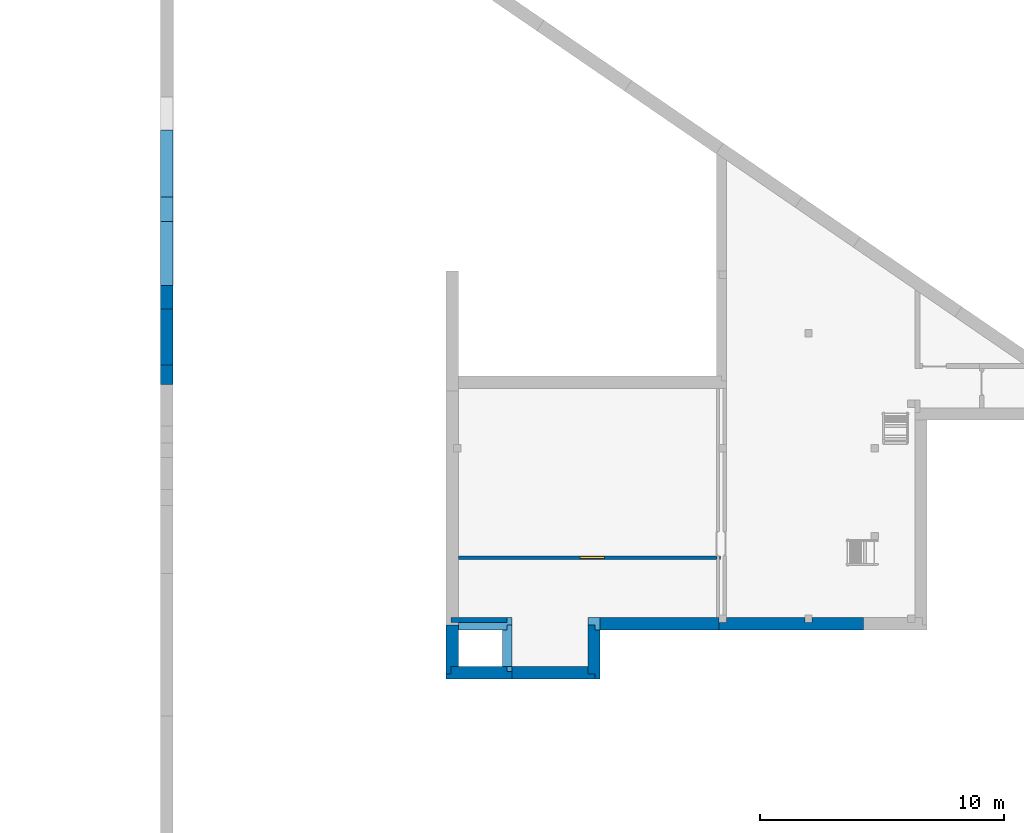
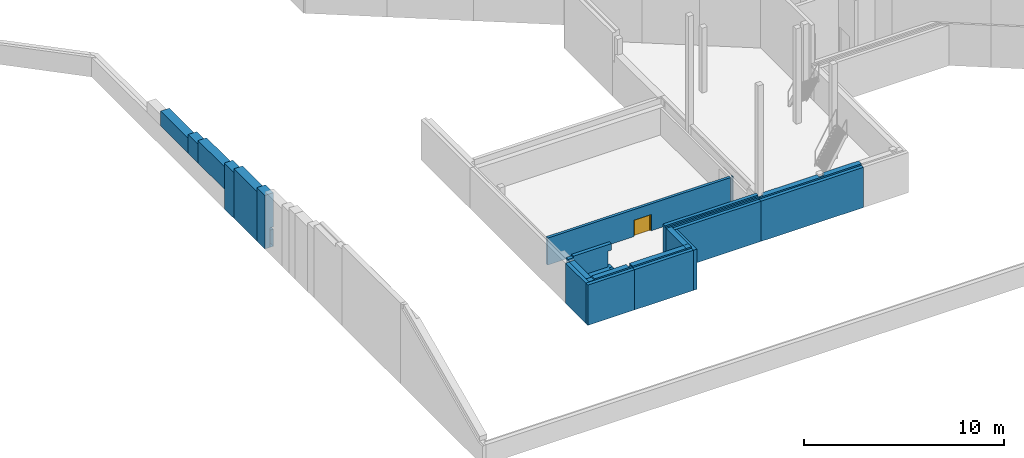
# One storey, part 4 of 8: 16 walls, 1 door, 1 opening.
"""IFC2X3 building model written with IfcOpenShell, lengths in millimetres."""

from ifc_helpers import new_model, entity, si_unit, converted_unit, derived_unit, money_unit, direction, frame, origin_with_axes, place, context, subcontext, project, spatial, faceted_brep, material, material_list, type_object, element, fill, save


model = new_model("IFC2X3")

# Units and contexts
model_context = context("Model", 3, precision=0.01, world=origin_with_axes(), true_north=direction((0.0, 1.0)))
body_context = subcontext(model_context, "Body", "Model", "MODEL_VIEW")
ifc_project = project(units=[si_unit("LENGTHUNIT", "METRE", prefix="MILLI"), si_unit("AREAUNIT", "SQUARE_METRE"), si_unit("VOLUMEUNIT", "CUBIC_METRE"), converted_unit("PLANEANGLEUNIT", "DEGREE", entity("IfcPlaneAngleMeasure", 0.0174532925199), si_unit("PLANEANGLEUNIT", "RADIAN"), dimensions=[0, 0, 0, 0, 0, 0, 0]), si_unit("SOLIDANGLEUNIT", "STERADIAN"), money_unit("EUR"), converted_unit("TIMEUNIT", "Year", entity("IfcTimeMeasure", 31556926.0), si_unit("TIMEUNIT", "SECOND"), dimensions=[0, 0, 1, 0, 0, 0, 0]), si_unit("MASSUNIT", "GRAM", prefix="KILO"), si_unit("THERMODYNAMICTEMPERATUREUNIT", "DEGREE_CELSIUS"), si_unit("LUMINOUSINTENSITYUNIT", "LUMEN"), si_unit("ENERGYUNIT", "JOULE", prefix="MEGA"), derived_unit("THERMALCONDUCTANCEUNIT", [(si_unit("POWERUNIT", "WATT"), 1), (si_unit("LENGTHUNIT", "METRE"), -1), (si_unit("THERMODYNAMICTEMPERATUREUNIT", "KELVIN"), -1)]), derived_unit("SPECIFICHEATCAPACITYUNIT", [(si_unit("ENERGYUNIT", "JOULE"), 1), (si_unit("MASSUNIT", "GRAM", prefix="KILO"), -1), (si_unit("THERMODYNAMICTEMPERATUREUNIT", "KELVIN"), -1)]), derived_unit("MASSDENSITYUNIT", [(si_unit("MASSUNIT", "GRAM", prefix="KILO"), 1), (si_unit("VOLUMEUNIT", "CUBIC_METRE"), -1)])], contexts=[model_context])

# Site, building, storey
site_placement = place(None, origin_with_axes())
site = spatial("IfcSite", under=ifc_project, at=site_placement, Name="L.Koidula tn 11b", CompositionType="ELEMENT")
building_placement = place(site_placement, origin_with_axes())
building = spatial("IfcBuilding", under=site, at=building_placement, Name="Rakvere Riigigümnaasium", CompositionType="ELEMENT")
storey_placement = place(building_placement, frame((0.0, 0.0, -2100.0), z_axis=(0.0, 0.0, 1.0), x_axis=(1.0, 0.0, 0.0)))
storey = spatial("IfcBuildingStorey", under=building, at=storey_placement, Name="1.korrus_tehniline -2,10", CompositionType="ELEMENT", Elevation=-2100.0)

# Walls
ifc_material_1 = material(Name="Betoon element / plaat")
wall_type_1 = type_object("IfcWallType", Name="SS-01 200", PredefinedType="NOTDEFINED")
wall_1_placement = place(storey_placement, frame((49399.9999937, 17110.4555123, 750.0), z_axis=(0.0, 0.0, 1.0), x_axis=(-1.0, 0.0, 0.0)))
element("IfcWall", 1, at=wall_1_placement, inside=storey, type_object=wall_type_1, material=ifc_material_1, Name="Sisesein", context=body_context, shape_type="Brep", body=[
    faceted_brep([(2499.99860057, -200.0, 0.0), (2499.99860057, -200.000010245, 1260.0), (2199.99999991, -200.000010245, 1260.0), (2199.99999991, -200.000010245, 1350.0), (0.0, -200.0, 1350.0), (0.0, -199.999999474, 955.0), (200.0, -199.999999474, 955.0), (200.0, -200.0, 0.0), (2499.99860057, 0.0, 0.0), (2499.99860057, 0.0, 1260.0), (2199.99999992, 0.0, 1260.0), (2199.99999992, 0.0, 1350.0), (0.0, 0.0, 1350.0), (0.0, 0.0, 955.0), (200.0, 0.0, 955.0), (200.0, 0.0, 0.0)], [[[0, 1, 2, 3, 4, 5, 6, 7]], [[8, 9, 1, 0]], [[10, 2, 1, 9]], [[11, 3, 2, 10]], [[4, 3, 11, 12]], [[4, 12, 13, 5]], [[13, 14, 6, 5]], [[14, 15, 7, 6]], [[8, 0, 7, 15]], [[11, 10, 9, 8, 15, 14, 13, 12]]]),
])
ifc_material_2 = material(Name="SOJ-04_Soojustus - Mineraal Kõva")
ifc_material_list_1 = material_list([ifc_material_1, ifc_material_2, ifc_material_2])
wall_type_2 = type_object("IfcWallType", Name="VS-06 500", PredefinedType="NOTDEFINED")
wall_2_placement = place(storey_placement, frame((35500.0000521, 29940.4554053, 899.999997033), z_axis=(0.0, 0.0, 1.0), x_axis=(0.0, -1.0, 0.0)))
element("IfcWall", 2, at=wall_2_placement, inside=storey, type_object=wall_type_2, material=ifc_material_list_1, Name="Välissein", context=body_context, shape_type="Brep", body=[
    faceted_brep([(2279.99988007, 0.0, 1190.00000297), (0.0, 0.0, 1190.00000297), (0.0, 0.0, 3040.00000297), (2279.99988007, 0.0, 3040.00000297), (0.0, -199.984037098, 1190.00000297), (2279.99988007, -199.987488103, 1190.00000297), (0.0, -199.984037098, 1040.00000297), (0.0, 0.0, 1040.00000297), (0.0, 0.0, 0.0), (0.0, -200.0, 0.0), (0.0, -200.0, 3040.00000297), (2279.99988007, -200.0, 3040.00000297), (2279.99988007, -200.0, 0.0), (2279.99988007, 0.0, 0.0), (2279.99988007, 0.0, 1040.00000297), (2279.99988007, -199.987488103, 1040.00000297)], [[[0, 1, 2, 3]], [[4, 1, 0, 5]], [[6, 7, 8, 9, 10, 2, 1, 4]], [[10, 11, 3, 2]], [[5, 0, 3, 11, 12, 13, 14, 15]], [[6, 4, 5, 15]], [[14, 7, 6, 15]], [[7, 14, 13, 8]], [[8, 13, 12, 9]], [[9, 12, 11, 10]]]),
    faceted_brep([(0.0, -200.0, 0.0), (2279.99988007, -200.0, 0.0), (2279.99988007, -300.0, 0.0), (0.0, -300.0, 0.0), (0.0, -200.0, 3040.00000297), (2279.99988007, -200.0, 3040.00000297), (2279.99988007, -300.0, 3040.00000297), (0.0, -300.0, 3040.00000297)], [[[0, 1, 2, 3]], [[4, 5, 1, 0]], [[2, 1, 5, 6]], [[3, 2, 6, 7]], [[4, 0, 3, 7]], [[7, 6, 5, 4]]]),
    faceted_brep([(2279.99988007, -300.0, 0.0), (2279.99988007, -500.0, 0.0), (0.0, -500.0, 0.0), (0.0, -300.0, 0.0), (2279.99988007, -300.0, 3040.00000297), (2279.99988007, -500.0, 3040.00000297), (0.0, -500.0, 3040.00000297), (0.0, -300.0, 3040.00000297)], [[[0, 1, 2, 3]], [[0, 4, 5, 1]], [[1, 5, 6, 2]], [[3, 2, 6, 7]], [[4, 0, 3, 7]], [[5, 4, 7, 6]]]),
])
wall_3_placement = place(storey_placement, frame((35500.0000521, 27660.4555253, 899.999997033), z_axis=(0.0, 0.0, 1.0), x_axis=(0.0, -1.0, 0.0)))
element("IfcWall", 3, at=wall_3_placement, inside=storey, type_object=wall_type_2, material=ifc_material_list_1, Name="Välissein", context=body_context, shape_type="Brep", body=[
    faceted_brep([(800.0, 0.0, 1190.00000297), (0.0, 0.0, 1190.00000297), (0.0, 0.0, 3270.00000297), (800.0, 0.0, 3270.00000297), (0.0, -199.987488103, 1190.00000297), (800.0, -199.988698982, 1190.00000297), (0.0, -199.987488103, 1040.00000297), (0.0, 0.0, 1040.00000297), (0.0, 0.0, 0.0), (0.0, -200.0, 0.0), (0.0, -200.0, 3270.00000297), (800.0, -200.0, 3270.00000297), (800.0, -200.0, 0.0), (800.0, 0.0, 0.0), (800.0, 0.0, 1040.00000297), (800.0, -199.988698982, 1040.00000297)], [[[0, 1, 2, 3]], [[4, 1, 0, 5]], [[6, 7, 8, 9, 10, 2, 1, 4]], [[10, 11, 3, 2]], [[5, 0, 3, 11, 12, 13, 14, 15]], [[6, 4, 5, 15]], [[14, 7, 6, 15]], [[7, 14, 13, 8]], [[8, 13, 12, 9]], [[9, 12, 11, 10]]]),
    faceted_brep([(800.0, -200.0, 0.0), (800.0, -300.0, 0.0), (0.0, -300.0, 0.0), (0.0, -200.0, 0.0), (800.0, -200.0, 3270.00000297), (800.0, -300.0, 3270.00000297), (0.0, -300.0, 3270.00000297), (0.0, -200.0, 3270.00000297)], [[[0, 1, 2, 3]], [[0, 4, 5, 1]], [[1, 5, 6, 2]], [[3, 2, 6, 7]], [[4, 0, 3, 7]], [[5, 4, 7, 6]]]),
    faceted_brep([(800.0, -300.0, 0.0), (800.0, -500.0, 0.0), (0.0, -500.0, 0.0), (0.0, -300.0, 0.0), (800.0, -300.0, 3270.00000297), (800.0, -500.0, 3270.00000297), (0.0, -500.0, 3270.00000297), (0.0, -300.0, 3270.00000297)], [[[0, 1, 2, 3]], [[0, 4, 5, 1]], [[1, 5, 6, 2]], [[3, 2, 6, 7]], [[4, 0, 3, 7]], [[5, 4, 7, 6]]]),
])
wall_4_placement = place(storey_placement, frame((35500.0000521, 30910.4555253, 899.999997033), z_axis=(0.0, 0.0, 1.0), x_axis=(0.0, -1.0, 0.0)))
element("IfcWall", 4, at=wall_4_placement, inside=storey, type_object=wall_type_2, material=ifc_material_list_1, Name="Välissein", context=body_context, shape_type="Brep", body=[
    faceted_brep([(950.000119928, 0.0, 1190.00000297), (0.0, 0.0, 1190.00000297), (0.0, 0.0, 2804.94683574), (950.000119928, 0.0, 2804.94683574), (0.0, -199.982568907, 1190.00000297), (950.000119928, -199.984006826, 1190.00000297), (0.0, -199.982568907, 1040.00000297), (0.0, 0.0, 1040.00000297), (0.0, 0.0, 0.0), (0.0, -200.0, 0.0), (0.0, -200.0, 2804.94683574), (950.000119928, -200.0, 2804.94683574), (950.000119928, -200.0, 0.0), (950.000119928, 0.0, 0.0), (950.000119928, 0.0, 1040.00000297), (950.000119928, -199.984006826, 1040.00000297)], [[[0, 1, 2, 3]], [[4, 1, 0, 5]], [[6, 7, 8, 9, 10, 2, 1, 4]], [[10, 11, 3, 2]], [[5, 0, 3, 11, 12, 13, 14, 15]], [[6, 4, 5, 15]], [[14, 7, 6, 15]], [[7, 14, 13, 8]], [[8, 13, 12, 9]], [[9, 12, 11, 10]]]),
    faceted_brep([(950.000119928, -200.0, 0.0), (950.000119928, -300.0, 0.0), (0.0, -300.0, 0.0), (0.0, -200.0, 0.0), (950.000119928, -200.0, 2804.94683574), (950.000119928, -300.0, 2804.94683574), (0.0, -300.0, 2804.94683574), (0.0, -200.0, 2804.94683574)], [[[0, 1, 2, 3]], [[0, 4, 5, 1]], [[1, 5, 6, 2]], [[3, 2, 6, 7]], [[4, 0, 3, 7]], [[5, 4, 7, 6]]]),
    faceted_brep([(950.000119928, -300.0, 0.0), (950.000119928, -500.0, 0.0), (0.0, -500.0, 0.0), (0.0, -300.0, 0.0), (950.000119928, -300.0, 2804.94683574), (950.000119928, -500.0, 2804.94683574), (0.0, -500.0, 2804.94683574), (0.0, -300.0, 2804.94683574)], [[[0, 1, 2, 3]], [[0, 4, 5, 1]], [[1, 5, 6, 2]], [[3, 2, 6, 7]], [[4, 0, 3, 7]], [[5, 4, 7, 6]]]),
])
ifc_material_list_2 = material_list([ifc_material_2, ifc_material_1])
wall_type_3 = type_object("IfcWallType", Name="VS-04 400", PredefinedType="NOTDEFINED")
wall_5_placement = place(storey_placement, frame((49399.9999937, 15300.4785302, -550.0), z_axis=(0.0, 0.0, 1.0), x_axis=(0.0, 1.0, 0.0)))
element("IfcWall", 5, at=wall_5_placement, inside=storey, type_object=wall_type_3, material=ifc_material_list_2, Name="Soklisein", context=body_context, shape_type="Brep", body=[
    faceted_brep([(6.34674535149e-07, 400.0, 1300.0), (6.89862389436e-07, 200.0, 1300.0), (1509.97698206, 200.0, 1300.0), (1509.97698206, 400.0, 1300.0), (6.89862389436e-07, 200.0, 0.0), (6.34672758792e-07, 400.0, 0.0), (1509.97698206, 200.0, 0.0), (1509.97698206, 400.0, 0.0)], [[[0, 1, 2, 3]], [[4, 1, 0, 5]], [[1, 4, 6, 2]], [[3, 2, 6, 7]], [[5, 0, 3, 7]], [[4, 5, 7, 6]]]),
    faceted_brep([(1709.97698206, 200.0, 460.0), (1709.97698206, 0.0, 460.0), (1709.97698206, 0.0, 0.0), (1709.97698206, 200.0, 0.0), (0.0, 0.0, 460.0), (0.0, 200.0, 460.0), (7.45052020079e-07, 0.0, 0.0), (6.89862389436e-07, 200.0, 0.0)], [[[0, 1, 2, 3]], [[4, 1, 0, 5]], [[1, 4, 6, 2]], [[2, 6, 7, 3]], [[5, 0, 3, 7]], [[4, 5, 7, 6]]]),
    faceted_brep([(0.0, 0.0, 540.0), (1709.97698206, 0.0, 540.0), (1709.97698206, 0.0, 1300.0), (7.45052020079e-07, 0.0, 1300.0), (1709.97698206, 200.0, 540.0), (0.0, 200.0, 540.0), (1709.97698206, 200.0, 1300.0), (6.89862389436e-07, 200.0, 1300.0)], [[[0, 1, 2, 3]], [[4, 1, 0, 5]], [[1, 4, 6, 2]], [[6, 7, 3, 2]], [[5, 0, 3, 7]], [[4, 5, 7, 6]]]),
])
ifc_material_list_3 = material_list([ifc_material_1, ifc_material_2])
wall_type_4 = type_object("IfcWallType", Name="VS-07 500", PredefinedType="NOTDEFINED")
wall_6_placement = place(storey_placement, frame((49399.9999937, 15300.4785302, -550.0), z_axis=(0.0, 0.0, 1.0), x_axis=(1.0, 0.0, 0.0)))
element("IfcWall", 6, at=wall_6_placement, inside=storey, type_object=wall_type_4, material=ifc_material_list_3, Name="Soklisein", context=body_context, shape_type="Brep", body=[
    faceted_brep([(3100.0, -300.0, 2550.0), (3100.0, -299.999999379, 0.0), (3100.0, 2.06961559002e-07, 0.0), (3100.0, 0.0, 2550.0), (0.0, -300.0, 2550.0), (0.0, -299.99999553, 0.0), (0.0, 1.49011825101e-06, 0.0), (0.0, 1.49011825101e-06, 1300.0), (0.0, 0.0, 2550.0), (0.0, -200.0, 2550.0)], [[[0, 1, 2, 3]], [[1, 0, 4, 5]], [[2, 1, 5, 6]], [[2, 6, 7, 8, 3]], [[0, 3, 8, 9, 4]], [[7, 6, 5, 4, 9, 8]]]),
    faceted_brep([(0.0, -299.999999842, 2460.0), (3400.0, -299.999999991, 2460.0), (3400.0, -299.999999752, 0.0), (0.0, -299.99999553, 0.0), (3400.0, -500.0, 2460.0), (0.0, -500.000000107, 2460.0), (3400.0, -500.0, 0.0), (0.0, -500.0, 0.0), (0.0, -500.00000149, 1300.0)], [[[0, 1, 2, 3]], [[4, 1, 0, 5]], [[1, 4, 6, 2]], [[3, 2, 6, 7]], [[5, 0, 3, 7, 8]], [[4, 5, 8, 7, 6]]]),
])
wall_7_placement = place(storey_placement, frame((49399.9999937, 15300.4785302, -550.0), z_axis=(0.0, 0.0, 1.0), x_axis=(-1.0, 0.0, 0.0)))
element("IfcWall", 7, at=wall_7_placement, inside=storey, type_object=wall_type_4, material=ifc_material_list_2, Name="Soklisein", context=body_context, shape_type="Brep", body=[
    faceted_brep([(2699.99999991, 299.999999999, 2460.0), (0.0, 299.999999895, 2460.0), (0.0, 299.99999702, 0.0), (2699.99999991, 299.999999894, 0.0), (0.0, 500.000000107, 2460.0), (2699.99999991, 500.0, 2460.0), (0.0, 500.00000149, 1300.0), (0.0, 500.00000149, 0.0), (2699.99999991, 500.000000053, 0.0)], [[[0, 1, 2, 3]], [[4, 1, 0, 5]], [[1, 4, 6, 7, 2]], [[2, 7, 8, 3]], [[5, 0, 3, 8]], [[4, 5, 8, 7, 6]]]),
    faceted_brep([(2499.99999991, 0.0, 0.0), (2499.99999991, 0.0, 2480.0), (2199.99999991, 0.0, 2480.0), (2199.99999991, 0.0, 2550.0), (200.0, 0.0, 2550.0), (200.0, 0.0, 1300.0), (0.0, 0.0, 1300.0), (0.0, 0.0, 0.0), (2499.99999991, 300.0, 2480.0), (2499.99999991, 299.999999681, 0.0), (2199.99999991, 300.0, 2480.0), (2199.99999991, 300.0, 2550.0), (200.0, 200.0, 2550.0), (0.0, 300.0, 2550.0), (0.0, 200.0, 2550.0), (200.0, 200.0, 1300.0), (0.0, 200.0, 1300.0), (0.0, 299.99999702, 0.0)], [[[0, 1, 2, 3, 4, 5, 6, 7]], [[8, 1, 0, 9]], [[1, 8, 10, 2]], [[10, 11, 3, 2]], [[12, 4, 3, 11, 13, 14]], [[5, 4, 12, 15]], [[16, 6, 5, 15]], [[16, 14, 13, 17, 7, 6]], [[9, 0, 7, 17]], [[8, 9, 17, 13, 11, 10]], [[12, 14, 16, 15]]]),
])
wall_8_placement = place(storey_placement, frame((52499.9999937, 15300.4785302, -550.0), z_axis=(0.0, 0.0, 1.0), x_axis=(0.0, 1.0, 0.0)))
element("IfcWall", 8, at=wall_8_placement, inside=storey, type_object=wall_type_4, material=ifc_material_list_3, Name="Soklisein", context=body_context, shape_type="Brep", body=[
    faceted_brep([(-300.0, 0.0, 2550.0), (-299.999999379, 0.0, 0.0), (-299.999999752, -300.0, 0.0), (-299.999999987, -300.0, 2480.0), (-300.0, -300.0, 2550.0), (0.0, 0.0, 2550.0), (0.0, 0.0, 2560.0), (1709.9769923, 4.18154399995e-08, 2560.0), (1709.9769923, 1.23120713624e-06, 0.0112241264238), (2009.9769923, 1.23120713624e-06, 0.0112241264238), (2009.9769923, 0.0, 0.0), (2009.9769923, -300.0, 0.0), (2009.9769923, -300.0, 0.0112241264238), (1709.9769923, -300.0, 0.0112241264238), (1709.9769923, -300.0, 2560.0), (0.0, -300.0, 2560.0), (0.0, -300.0, 2550.0)], [[[0, 1, 2, 3, 4]], [[1, 0, 5, 6, 7, 8, 9, 10]], [[2, 1, 10, 11]], [[3, 2, 11, 12, 13, 14, 15, 16, 4]], [[0, 4, 16, 5]], [[5, 16, 15, 6]], [[14, 7, 6, 15]], [[7, 14, 13, 8]], [[13, 12, 9, 8]], [[9, 12, 11, 10]]]),
    faceted_brep([(1509.9769923, -300.0, 2460.0), (1509.9769923, -500.0, 2460.0), (1509.9769923, -500.0, 0.0112241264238), (1509.9769923, -300.0, 0.0112241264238), (-500.0, -500.0, 2460.0), (-500.0, -300.0, 2460.0), (-500.0, -500.0, 0.0), (2009.9769923, -500.0, 0.0), (2009.9769923, -500.0, 0.0112241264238), (2009.9769923, -300.0, 0.0112241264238), (2009.9769923, -300.0, 0.0), (-500.0, -300.0, 0.0)], [[[0, 1, 2, 3]], [[4, 1, 0, 5]], [[1, 4, 6, 7, 8, 2]], [[8, 9, 3, 2]], [[5, 0, 3, 9, 10, 11]], [[4, 5, 11, 6]], [[6, 11, 10, 7]], [[10, 9, 8, 7]]]),
])
wall_9_placement = place(storey_placement, frame((35500.0000521, 33540.4555253, 2100.0), z_axis=(0.0, 0.0, 1.0), x_axis=(0.0, -1.0, 0.0)))
element("IfcWall", 9, at=wall_9_placement, inside=storey, type_object=wall_type_4, material=ifc_material_list_3, Name="Välissein", context=body_context, shape_type="Brep", body=[
    faceted_brep([(2630.0, 0.0, 0.0), (2630.0, -300.0, 0.0), (0.0, -300.0, 0.0), (0.0, 0.0, 0.0), (2630.0, 0.0, 1375.0), (2630.0, -300.0, 1375.0), (0.0, -300.0, 1375.0), (0.0, 0.0, 1375.0)], [[[0, 1, 2, 3]], [[0, 4, 5, 1]], [[1, 5, 6, 2]], [[3, 2, 6, 7]], [[4, 0, 3, 7]], [[5, 4, 7, 6]]]),
    faceted_brep([(2630.0, -300.0, 0.0), (2630.0, -500.0, 0.0), (0.0, -500.0, 0.0), (0.0, -300.0, 0.0), (2630.0, -300.0, 1375.0), (2630.0, -500.0, 1375.0), (0.0, -500.0, 1375.0), (0.0, -300.0, 1375.0)], [[[0, 1, 2, 3]], [[0, 4, 5, 1]], [[1, 5, 6, 2]], [[3, 2, 6, 7]], [[4, 0, 3, 7]], [[5, 4, 7, 6]]]),
])
wall_10_placement = place(storey_placement, frame((57880.0348819, 17310.4555225, -549.988775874), z_axis=(0.0, 0.0, 1.0), x_axis=(-1.0, 0.0, 0.0)))
element("IfcWall", 10, at=wall_10_placement, inside=storey, type_object=wall_type_4, material=ifc_material_list_2, Name="Soklisein", context=body_context, shape_type="Brep", body=[
    faceted_brep([(5080.03488822, 300.0, 2459.98877587), (0.0, 300.0, 2459.98877587), (0.0, 300.0, 0.0), (5080.03488822, 300.0, 0.0), (0.0, 500.0, 2459.98877587), (5080.03488822, 500.0, 2459.98877587), (0.0, 500.0, 0.0), (5080.03488822, 500.0, 0.0)], [[[0, 1, 2, 3]], [[4, 1, 0, 5]], [[1, 4, 6, 2]], [[6, 7, 3, 2]], [[5, 0, 3, 7]], [[4, 5, 7, 6]]]),
    faceted_brep([(0.0, 200.000013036, 2649.98877587), (5380.03488822, 200.000013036, 2649.98877587), (5380.03488822, 200.000013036, 2559.98877587), (0.0, 200.000013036, 2559.98877587), (5380.03488822, 0.0, 2649.98877587), (0.0, 0.0, 2649.98877587), (5380.03488822, 300.0, 2559.98877587), (5380.03488822, 0.0, 2559.98877587), (5380.03488945, 0.0, 0.0), (5380.03488945, 300.0, 0.0), (0.0, 300.0, 2559.98877587), (0.0, 300.0, 0.0), (0.0, 0.0, 0.0)], [[[0, 1, 2, 3]], [[4, 1, 0, 5]], [[6, 2, 1, 4, 7, 8, 9]], [[6, 10, 3, 2]], [[0, 3, 10, 11, 12, 5]], [[12, 8, 7, 4, 5]], [[12, 11, 9, 8]], [[11, 10, 6, 9]]]),
])
wall_11_placement = place(storey_placement, frame((63790.0000003, 17310.4555225, -549.988775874), z_axis=(0.0, 0.0, 1.0), x_axis=(-1.0, 0.0, 0.0)))
element("IfcWall", 11, at=wall_11_placement, inside=storey, type_object=wall_type_4, material=ifc_material_list_2, Name="Soklisein", context=body_context, shape_type="Brep", body=[
    faceted_brep([(5909.96511841, 300.0, 2459.98877587), (0.0, 300.0, 2459.98877587), (0.0, 300.0, 0.0), (5909.96511841, 300.0, 0.0), (0.0, 500.0, 2459.98877587), (5909.96511841, 500.0, 2459.98877587), (0.0, 500.0, 0.0), (5909.96511841, 500.0, 0.0)], [[[0, 1, 2, 3]], [[4, 1, 0, 5]], [[1, 4, 6, 2]], [[6, 7, 3, 2]], [[5, 0, 3, 7]], [[4, 5, 7, 6]]]),
    faceted_brep([(2399.97906929, 0.0, 549.988775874), (2099.97906929, 0.0, 549.988775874), (2099.97906929, 0.0, 2549.98877587), (0.0, 0.0, 2549.98877587), (0.0, 0.0, 0.0), (5909.96511841, 0.0, 0.0), (5909.96511841, 0.0, 549.988775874), (5609.96511841, 0.0, 549.988775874), (5609.96511841, 0.0, 2549.98877587), (2399.97906929, 0.0, 2549.98877587), (2399.97906929, 200.023008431, 549.988775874), (2099.97906929, 200.023008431, 549.988775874), (2099.97906929, 200.023008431, 2549.98877587), (2399.97906929, 200.023008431, 2549.98877587), (5609.96511841, 200.000013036, 2549.98877587), (5909.96511841, 200.000013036, 2549.98877587), (5909.96511841, 300.0, 2549.98877587), (0.0, 300.0, 2549.98877587), (0.0, 300.0, 0.0), (5909.96511841, 300.0, 0.0), (5909.96511841, 200.000013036, 549.988775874), (5609.96511841, 200.000013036, 549.988775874)], [[[0, 1, 2, 3, 4, 5, 6, 7, 8, 9]], [[1, 0, 10, 11]], [[12, 2, 1, 11]], [[13, 9, 8, 14, 15, 16, 17, 3, 2, 12]], [[4, 3, 17, 18]], [[18, 19, 5, 4]], [[20, 6, 5, 19, 16, 15]], [[7, 6, 20, 21]], [[14, 8, 7, 21]], [[0, 9, 13, 10]], [[13, 12, 11, 10]], [[15, 14, 21, 20]], [[17, 16, 19, 18]]]),
])
wall_12_placement = place(storey_placement, frame((35500.0000521, 37290.3410804, 2100.0), z_axis=(0.0, 0.0, 1.0), x_axis=(0.0, -1.0, 0.0)))
element("IfcWall", 12, at=wall_12_placement, inside=storey, type_object=wall_type_4, material=ifc_material_list_3, Name="Välissein", context=body_context, shape_type="Brep", body=[
    faceted_brep([(2760.0, 0.0, 0.0), (2760.0, -300.0, 0.0), (0.0, -300.0, 0.0), (0.0, 0.0, 0.0), (2760.0, 0.0, 910.0), (2760.0, -300.0, 910.0), (0.0, -300.0, 910.0), (0.0, 0.0, 910.0)], [[[0, 1, 2, 3]], [[0, 4, 5, 1]], [[1, 5, 6, 2]], [[3, 2, 6, 7]], [[4, 0, 3, 7]], [[5, 4, 7, 6]]]),
    faceted_brep([(2760.0, -300.0, 0.0), (2760.0, -500.0, 0.0), (0.0, -500.0, 0.0), (0.0, -300.0, 0.0), (2760.0, -300.0, 910.0), (2760.0, -500.0, 910.0), (0.0, -500.0, 910.0), (0.0, -300.0, 910.0)], [[[0, 1, 2, 3]], [[0, 4, 5, 1]], [[1, 5, 6, 2]], [[3, 2, 6, 7]], [[4, 0, 3, 7]], [[5, 4, 7, 6]]]),
])
wall_13_placement = place(storey_placement, frame((35500.0000521, 34530.3410804, 2100.0), z_axis=(0.0, 0.0, 1.0), x_axis=(0.0, -1.0, 0.0)))
element("IfcWall", 13, at=wall_13_placement, inside=storey, type_object=wall_type_4, material=ifc_material_list_3, Name="Välissein", context=body_context, shape_type="Brep", body=[
    faceted_brep([(989.885555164, 0.0, 0.0), (989.885555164, -300.0, 0.0), (0.0, -300.0, 0.0), (0.0, 0.0, 0.0), (989.885555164, 0.0, 1145.0), (989.885555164, -300.0, 1145.0), (0.0, -300.0, 1145.0), (0.0, 0.0, 1145.0)], [[[0, 1, 2, 3]], [[0, 4, 5, 1]], [[1, 5, 6, 2]], [[3, 2, 6, 7]], [[4, 0, 3, 7]], [[5, 4, 7, 6]]]),
    faceted_brep([(989.885555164, -300.0, 0.0), (989.885555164, -500.0, 0.0), (0.0, -500.0, 0.0), (0.0, -300.0, 0.0), (989.885555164, -300.0, 1145.0), (989.885555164, -500.0, 1145.0), (0.0, -500.0, 1145.0), (0.0, -300.0, 1145.0)], [[[0, 1, 2, 3]], [[0, 4, 5, 1]], [[1, 5, 6, 2]], [[3, 2, 6, 7]], [[4, 0, 3, 7]], [[5, 4, 7, 6]]]),
])
wall_14_placement = place(storey_placement, frame((47199.9999938, 15300.4785302, -550.0), z_axis=(0.0, 0.0, 1.0), x_axis=(0.0, 1.0, 0.0)))
element("IfcWall", 14, at=wall_14_placement, inside=storey, type_object=wall_type_4, material=ifc_material_list_2, Name="Soklisein", context=body_context, shape_type="Brep", body=[
    faceted_brep([(1709.97698206, 500.0, 2460.0), (1709.97698206, 300.0, 2460.0), (1709.97698206, 300.0, 0.0), (1709.97698206, 500.0, 0.0), (-300.0, 300.0, 2460.0), (-300.0, 500.0, 2460.0), (-300.0, 300.0, 0.0), (-300.0, 500.0, 0.0)], [[[0, 1, 2, 3]], [[4, 1, 0, 5]], [[1, 4, 6, 2]], [[7, 3, 2, 6]], [[5, 0, 3, 7]], [[4, 5, 7, 6]]]),
    faceted_brep([(1709.97698206, 0.0, 2480.0), (1709.97698206, 300.0, 2480.0), (0.0, 300.0, 2480.0), (0.0, 0.0, 2480.0), (1709.97698206, 0.0, 0.0), (1709.97698206, 300.0, 0.0), (0.0, 300.0, 0.0), (0.0, 0.0, 0.0)], [[[0, 1, 2, 3]], [[0, 4, 5, 1]], [[1, 5, 6, 2]], [[3, 2, 6, 7]], [[4, 0, 3, 7]], [[5, 4, 7, 6]]]),
])
wall_15_placement = place(storey_placement, frame((49399.9999937, 17310.4555123, -550.0), z_axis=(0.0, 0.0, 1.0), x_axis=(-1.0, 0.0, 0.0)))
element("IfcWall", 15, at=wall_15_placement, inside=storey, type_object=wall_type_4, material=ifc_material_list_2, Name="Soklisein", context=body_context, shape_type="Brep", body=[
    faceted_brep([(2199.99999991, 500.0, 1300.0), (200.0, 500.0, 1300.0), (200.0, 300.0, 1300.0), (2199.99999991, 300.0, 1300.0), (2199.99999991, 500.0, 0.0), (200.0, 500.0, 0.0), (200.0, 300.0, 0.0), (2199.99999991, 300.0, 0.0)], [[[0, 1, 2, 3]], [[4, 5, 1, 0]], [[2, 1, 5, 6]], [[3, 2, 6, 7]], [[3, 7, 4, 0]], [[7, 6, 5, 4]]]),
    faceted_brep([(0.0, 300.0, 540.0), (0.0, 0.0, 540.0), (0.0, 0.0, 1300.0), (0.0, 300.0, 1300.0), (2199.99999991, 0.0, 540.0), (200.0, 300.0, 540.0), (200.0, 200.0, 540.0), (2199.99999991, 200.0, 540.0), (2199.99999991, 0.0, 1300.0), (2199.99999991, 300.0, 1300.0), (2199.99999991, 300.0, 0.0), (0.0, 300.0, 0.0), (0.0, 300.0, 460.0), (200.0, 300.0, 460.0), (200.0, 200.0, 460.0), (2199.99999991, 200.0, 460.0), (2199.99999991, 0.0, 460.0), (2199.99999991, 0.0, 0.0), (0.0, 0.0, 0.0), (0.0, 0.0, 460.0)], [[[0, 1, 2, 3]], [[4, 1, 0, 5, 6, 7]], [[1, 4, 8, 2]], [[8, 9, 3, 2]], [[5, 0, 3, 9, 10, 11, 12, 13]], [[5, 13, 14, 6]], [[15, 7, 6, 14]], [[15, 16, 17, 10, 9, 8, 4, 7]], [[10, 17, 18, 11]], [[19, 12, 11, 18]], [[12, 19, 16, 15, 14, 13]], [[16, 19, 18, 17]]]),
])

# Wall, opening, door
ifc_material_3 = material(Name="Kipsplaat")
ifc_material_4 = material(Name="mineraalvill+karkass")
ifc_material_list_4 = material_list([ifc_material_3, ifc_material_3, ifc_material_4, ifc_material_3, ifc_material_3])
wall_type_5 = type_object("IfcWallType", Name="SS-07 155", PredefinedType="NOTDEFINED")
wall_16_placement = place(storey_placement, frame((47199.9999938, 19835.4555096, 0.0), z_axis=(0.0, 0.0, 1.0), x_axis=(1.0, 0.0, 0.0)))
wall_16 = element("IfcWall", 16, at=wall_16_placement, inside=storey, type_object=wall_type_5, material=ifc_material_list_4, Name="Sisesein", context=body_context, shape_type="Brep", body=[
    faceted_brep([(4990.0, 0.0, 1000.0), (4990.0, 0.0, 0.0), (0.0, 0.0, 0.0), (0.0, 0.0, 1650.0), (10564.0348881, 0.0, 1650.0), (10564.0348881, 0.0, 0.0), (5990.00000012, 0.0, 0.0), (5990.00000012, 0.0, 1000.0), (4990.0, -15.0, 1000.0), (4990.0, -15.0, 0.0), (0.0, -15.0, 0.0), (0.0, -15.0, 1650.0), (10564.0348881, -15.0, 1650.0), (10564.0348881, -15.0, 0.0), (5990.00000012, -15.0, 0.0), (5990.00000012, -15.0, 1000.0)], [[[0, 1, 2, 3, 4, 5, 6, 7]], [[1, 0, 8, 9]], [[1, 9, 10, 2]], [[3, 2, 10, 11]], [[4, 3, 11, 12]], [[12, 13, 5, 4]], [[14, 6, 5, 13]], [[7, 6, 14, 15]], [[0, 7, 15, 8]], [[15, 14, 13, 12, 11, 10, 9, 8]]]),
    faceted_brep([(10685.0348881, 0.0, 1650.0), (10730.0348881, 0.0, 1650.0), (10730.0348881, 0.0, 0.0), (10685.0348881, 0.0, 0.0), (10730.0348881, -15.0, 1650.0), (10685.0348881, -15.0, 1650.0), (10730.0348881, -15.0, 0.0), (10685.0348881, -15.0, 0.0)], [[[0, 1, 2, 3]], [[4, 1, 0, 5]], [[1, 4, 6, 2]], [[7, 3, 2, 6]], [[5, 0, 3, 7]], [[4, 5, 7, 6]]]),
    faceted_brep([(4990.0, -15.0, 1000.0), (4990.0, -15.0, 0.0), (0.0, -15.0, 0.0), (0.0, -15.0, 1650.0), (10577.0348881, -15.0, 1650.0), (10577.0348881, -15.0, 0.0), (5990.00000012, -15.0, 0.0), (5990.00000012, -15.0, 1000.0), (4990.0, -30.0, 1000.0), (4990.0, -30.0, 0.0), (0.0, -30.0, 0.0), (0.0, -30.0, 1650.0), (10577.0348881, -30.0, 1650.0), (10577.0348881, -30.0, 0.0), (5990.00000012, -30.0, 0.0), (5990.00000012, -30.0, 1000.0)], [[[0, 1, 2, 3, 4, 5, 6, 7]], [[1, 0, 8, 9]], [[1, 9, 10, 2]], [[3, 2, 10, 11]], [[4, 3, 11, 12]], [[12, 13, 5, 4]], [[14, 6, 5, 13]], [[7, 6, 14, 15]], [[0, 7, 15, 8]], [[15, 14, 13, 12, 11, 10, 9, 8]]]),
    faceted_brep([(10685.0348881, -15.0, 1650.0), (10730.0348881, -15.0, 1650.0), (10730.0348881, -15.0, 0.0), (10685.0348881, -15.0, 0.0), (10730.0348881, -30.0, 1650.0), (10685.0348881, -30.0, 1650.0), (10730.0348881, -30.0, 0.0), (10685.0348881, -30.0, 0.0)], [[[0, 1, 2, 3]], [[4, 1, 0, 5]], [[1, 4, 6, 2]], [[7, 3, 2, 6]], [[5, 0, 3, 7]], [[4, 5, 7, 6]]]),
    faceted_brep([(4990.0, -30.0, 1000.0), (4990.0, -30.0, 0.0), (0.0, -30.0, 0.0), (0.0, -30.0, 1650.0), (10590.0348881, -30.0, 1650.0), (10590.0348881, -30.0, 0.0), (5990.00000012, -30.0, 0.0), (5990.00000012, -30.0, 1000.0), (4990.0, -105.0, 0.0), (4990.0, -125.0, 1000.0), (4990.0, -125.0, 0.0), (0.0, -125.0, 0.0), (0.0, -125.0, 1650.0), (10590.0348881, -125.0, 1650.0), (10590.0348881, -125.0, 0.0), (5990.00000012, -105.0, 0.0), (5990.00000012, -125.0, 0.0), (5990.00000012, -125.0, 1000.0)], [[[0, 1, 2, 3, 4, 5, 6, 7]], [[8, 1, 0, 9, 10]], [[1, 8, 10, 11, 2]], [[2, 11, 12, 3]], [[3, 12, 13, 4]], [[14, 5, 4, 13]], [[15, 6, 5, 14, 16]], [[7, 6, 15, 16, 17]], [[0, 7, 17, 9]], [[11, 10, 9, 17, 16, 14, 13, 12]]]),
    faceted_brep([(10685.0348881, -30.0, 1650.0), (10730.0348881, -30.0, 1650.0), (10730.0348881, -30.0, 0.0), (10685.0348881, -30.0, 0.0), (10730.0348881, -125.0, 1650.0), (10685.0348881, -125.0, 1650.0), (10730.0348881, -125.0, 0.0), (10685.0348881, -125.0, 0.0)], [[[0, 1, 2, 3]], [[4, 1, 0, 5]], [[1, 4, 6, 2]], [[7, 3, 2, 6]], [[5, 0, 3, 7]], [[4, 5, 7, 6]]]),
    faceted_brep([(4990.0, -125.0, 1000.0), (4990.0, -125.0, 0.0), (0.0, -125.0, 0.0), (0.0, -125.0, 1650.0), (10577.0348881, -125.0, 1650.0), (10577.0348881, -125.0, 0.0), (5990.00000012, -125.0, 0.0), (5990.00000012, -125.0, 1000.0), (4990.0, -140.0, 1000.0), (4990.0, -140.0, 0.0), (0.0, -140.0, 0.0), (0.0, -140.0, 1650.0), (10577.0348881, -140.0, 1650.0), (10577.0348881, -140.0, 0.0), (5990.00000012, -140.0, 0.0), (5990.00000012, -140.0, 1000.0)], [[[0, 1, 2, 3, 4, 5, 6, 7]], [[1, 0, 8, 9]], [[1, 9, 10, 2]], [[3, 2, 10, 11]], [[4, 3, 11, 12]], [[12, 13, 5, 4]], [[14, 6, 5, 13]], [[7, 6, 14, 15]], [[0, 7, 15, 8]], [[15, 14, 13, 12, 11, 10, 9, 8]]]),
    faceted_brep([(10685.0348881, -125.0, 1650.0), (10730.0348881, -125.0, 1650.0), (10730.0348881, -125.0, 0.0), (10685.0348881, -125.0, 0.0), (10730.0348881, -140.0, 1650.0), (10685.0348881, -140.0, 1650.0), (10730.0348881, -140.0, 0.0), (10685.0348881, -140.0, 0.0)], [[[0, 1, 2, 3]], [[4, 1, 0, 5]], [[1, 4, 6, 2]], [[7, 3, 2, 6]], [[5, 0, 3, 7]], [[4, 5, 7, 6]]]),
    faceted_brep([(4990.0, -140.0, 1000.0), (4990.0, -140.0, 0.0), (0.0, -140.0, 0.0), (0.0, -140.0, 1650.0), (10564.0348881, -140.0, 1650.0), (10564.0348881, -140.0, 0.0), (5990.00000012, -140.0, 0.0), (5990.00000012, -140.0, 1000.0), (4990.0, -155.0, 1000.0), (4990.0, -155.0, 0.0), (0.0, -155.0, 0.0), (0.0, -155.0, 1650.0), (10564.0348881, -155.0, 1650.0), (10564.0348881, -155.0, 0.0), (5990.00000012, -155.0, 0.0), (5990.00000012, -155.0, 1000.0)], [[[0, 1, 2, 3, 4, 5, 6, 7]], [[1, 0, 8, 9]], [[1, 9, 10, 2]], [[3, 2, 10, 11]], [[4, 3, 11, 12]], [[12, 13, 5, 4]], [[14, 6, 5, 13]], [[7, 6, 14, 15]], [[0, 7, 15, 8]], [[15, 14, 13, 12, 11, 10, 9, 8]]]),
    faceted_brep([(10685.0348881, -140.0, 1650.0), (10730.0348881, -140.0, 1650.0), (10730.0348881, -140.0, 0.0), (10685.0348881, -140.0, 0.0), (10730.0348881, -155.0, 1650.0), (10685.0348881, -155.0, 1650.0), (10730.0348881, -155.0, 0.0), (10685.0348881, -155.0, 0.0)], [[[0, 1, 2, 3]], [[4, 1, 0, 5]], [[1, 4, 6, 2]], [[7, 3, 2, 6]], [[5, 0, 3, 7]], [[4, 5, 7, 6]]]),
])
opening_placement = place(wall_16_placement, frame((5490.00000006, 0.0, 0.0), z_axis=(0.0, 0.0, 1.0), x_axis=(1.0, 0.0, 0.0)))
opening = element("IfcOpeningElement", 17, at=opening_placement, cuts=wall_16, Name="TL-02", context=body_context, shape_type="Brep", body=[
    faceted_brep([(500.000000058, 155.0, 0.0), (500.000000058, 155.0, 1000.0), (500.000000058, -105.0, 1000.0), (500.000000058, -105.0, 0.0), (-500.000000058, 155.0, 0.0), (-500.000000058, 155.0, 1000.0), (-500.000000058, -105.0, 1000.0), (-500.000000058, -105.0, 0.0)], [[[0, 1, 2, 3]], [[0, 4, 5, 1]], [[1, 5, 6, 2]], [[3, 2, 6, 7]], [[4, 0, 3, 7]], [[5, 4, 7, 6]]]),
    faceted_brep([(500.000000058, -310.0, 1000.0), (500.000000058, -310.0, 0.0), (500.000000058, -105.0, 0.0), (500.000000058, -105.0, 1000.0), (-500.000000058, -310.0, 1000.0), (-500.000000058, -310.0, 0.0), (-500.000000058, -105.0, 0.0), (-500.000000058, -105.0, 1000.0)], [[[0, 1, 2, 3]], [[0, 4, 5, 1]], [[1, 5, 6, 2]], [[3, 2, 6, 7]], [[4, 0, 3, 7]], [[5, 4, 7, 6]]]),
])
door_style = type_object("IfcDoorStyle", Name="Door 23", ConstructionType="NOTDEFINED", OperationType="SINGLE_SWING_RIGHT", ParameterTakesPrecedence=False, Sizeable=False)
door_placement = place(opening_placement, frame((-500.000000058, 0.0, 0.0), z_axis=(0.0, 0.0, 1.0), x_axis=(1.0, 0.0, 0.0)))
door = element("IfcDoor", 18, at=door_placement, inside=storey, type_object=door_style, Name="TL-02", ObjectType="DOOR", OverallHeight=1000.0, OverallWidth=1000.0, context=body_context, shape_type="Brep", body=[
    faceted_brep([(50.0, -65.0, 0.0), (50.0, -65.0, 950.0), (50.0, -105.0, 950.0), (50.0, -105.0, 0.0), (38.0, -65.0, 950.0), (38.0, -65.0, 0.0), (38.0, -25.0, 950.0), (0.0, -25.0, 950.0), (0.0, -105.0, 950.0), (0.0, -105.0, 0.0), (0.0, -25.0, 0.0), (38.0, -25.0, 0.0)], [[[0, 1, 2, 3]], [[4, 1, 0, 5]], [[4, 6, 7, 8, 2, 1]], [[3, 2, 8, 9]], [[5, 0, 3, 9, 10, 11]], [[6, 4, 5, 11]], [[6, 11, 10, 7]], [[10, 9, 8, 7]]]),
    faceted_brep([(962.000000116, -65.0, 950.0), (950.000000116, -65.0, 950.0), (950.000000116, -105.0, 950.0), (1000.00000012, -105.0, 950.0), (1000.00000012, -25.0, 950.0), (962.000000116, -25.0, 950.0), (962.000000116, -65.0, 0.0), (950.000000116, -65.0, 0.0), (950.000000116, -105.0, 0.0), (1000.00000012, -105.0, 0.0), (1000.00000012, -25.0, 0.0), (962.000000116, -25.0, 0.0)], [[[0, 1, 2, 3, 4, 5]], [[1, 0, 6, 7]], [[1, 7, 8, 2]], [[3, 2, 8, 9]], [[4, 3, 9, 10]], [[11, 5, 4, 10]], [[0, 5, 11, 6]], [[6, 11, 10, 9, 8, 7]]]),
    faceted_brep([(38.0, -25.0, 962.0), (38.0, -25.0, 950.0), (0.0, -25.0, 950.0), (0.0, -25.0, 1000.0), (1000.00000012, -25.0, 1000.0), (1000.00000012, -25.0, 950.0), (962.000000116, -25.0, 950.0), (962.000000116, -25.0, 962.0), (38.0, -65.0, 962.0), (38.0, -65.0, 950.0), (50.0, -65.0, 950.0), (50.0, -105.0, 950.0), (0.0, -105.0, 950.0), (0.0, -105.0, 1000.0), (1000.00000012, -105.0, 1000.0), (1000.00000012, -105.0, 950.0), (962.000000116, -65.0, 950.0), (950.000000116, -105.0, 950.0), (950.000000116, -65.0, 950.0), (962.000000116, -65.0, 962.0)], [[[0, 1, 2, 3, 4, 5, 6, 7]], [[1, 0, 8, 9]], [[9, 10, 11, 12, 2, 1]], [[2, 12, 13, 3]], [[3, 13, 14, 4]], [[4, 14, 15, 5]], [[16, 6, 5, 15, 17, 18]], [[7, 6, 16, 19]], [[0, 7, 19, 8]], [[16, 18, 10, 9, 8, 19]], [[10, 18, 17, 11]], [[17, 15, 14, 13, 12, 11]]]),
    faceted_brep([(962.000000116, -25.0, 0.0), (962.000000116, -65.0, 0.0), (38.0, -65.0, 0.0), (38.0, -25.0, 0.0), (962.000000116, -25.0, 962.0), (962.000000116, -65.0, 962.0), (38.0, -65.0, 962.0), (38.0, -25.0, 962.0)], [[[0, 1, 2, 3]], [[4, 5, 1, 0]], [[1, 5, 6, 2]], [[3, 2, 6, 7]], [[0, 3, 7, 4]], [[7, 6, 5, 4]]]),
])
fill(opening, door)

save(model, "model.ifc")
